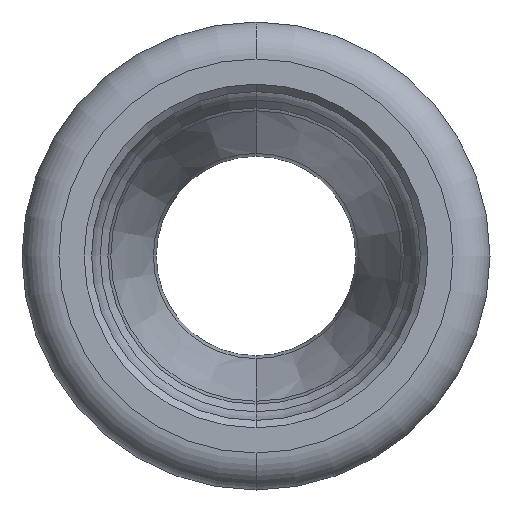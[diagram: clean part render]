
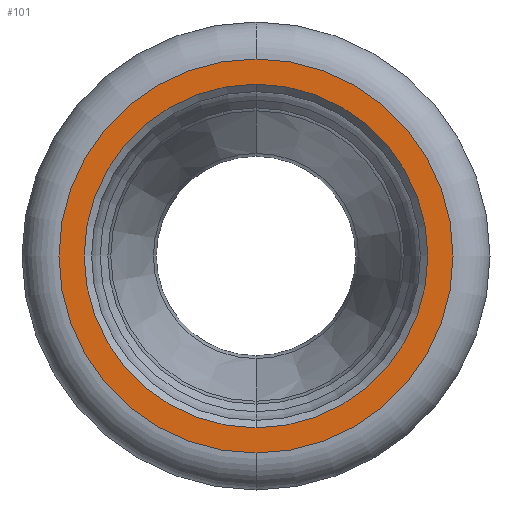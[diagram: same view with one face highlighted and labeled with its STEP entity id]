
A CAD part, left-side view. The second image highlights one B-rep face of the part: STEP entity #101.
In plain terms, the highlighted planar face has unit normal (-1, 0, 0).
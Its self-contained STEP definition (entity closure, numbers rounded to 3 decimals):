
#18 = CIRCLE ( 'NONE', #1534, 11.6 ) ;
#101 = ADVANCED_FACE ( 'NONE', ( #1804, #862 ), #410, .T. ) ;
#147 = ORIENTED_EDGE ( 'NONE', *, *, #2561, .F. ) ;
#234 = CARTESIAN_POINT ( 'NONE',  ( -30.328, 0., -13.3 ) ) ;
#402 = VERTEX_POINT ( 'NONE', #234 ) ;
#410 = PLANE ( 'NONE',  #2570 ) ;
#480 = ORIENTED_EDGE ( 'NONE', *, *, #497, .F. ) ;
#497 = EDGE_CURVE ( 'NONE', #992, #1808, #18, .T. ) ;
#707 = CARTESIAN_POINT ( 'NONE',  ( -30.328, 0., 0. ) ) ;
#806 = DIRECTION ( 'NONE',  ( -1., 0., 0. ) ) ;
#862 = FACE_BOUND ( 'NONE', #1655, .T. ) ;
#992 = VERTEX_POINT ( 'NONE', #2859 ) ;
#1052 = AXIS2_PLACEMENT_3D ( 'NONE', #707, #2408, #2375 ) ;
#1132 = VERTEX_POINT ( 'NONE', #2339 ) ;
#1146 = DIRECTION ( 'NONE',  ( -1., 0., 0. ) ) ;
#1158 = ORIENTED_EDGE ( 'NONE', *, *, #2441, .T. ) ;
#1199 = DIRECTION ( 'NONE',  ( 0., 0., 1. ) ) ;
#1245 = DIRECTION ( 'NONE',  ( 0., 0., 1. ) ) ;
#1377 = CARTESIAN_POINT ( 'NONE',  ( -30.328, -13.3, 0. ) ) ;
#1508 = EDGE_LOOP ( 'NONE', ( #2455, #1158 ) ) ;
#1534 = AXIS2_PLACEMENT_3D ( 'NONE', #1732, #806, #2001 ) ;
#1655 = EDGE_LOOP ( 'NONE', ( #480, #147 ) ) ;
#1732 = CARTESIAN_POINT ( 'NONE',  ( -30.328, 0., 0. ) ) ;
#1804 = FACE_OUTER_BOUND ( 'NONE', #1508, .T. ) ;
#1808 = VERTEX_POINT ( 'NONE', #2395 ) ;
#1877 = CIRCLE ( 'NONE', #2515, 13.3 ) ;
#2001 = DIRECTION ( 'NONE',  ( 0., 0., 1. ) ) ;
#2093 = DIRECTION ( 'NONE',  ( 0., 0., 1. ) ) ;
#2128 = AXIS2_PLACEMENT_3D ( 'NONE', #2184, #2223, #1245 ) ;
#2184 = CARTESIAN_POINT ( 'NONE',  ( -30.328, 0., 0. ) ) ;
#2195 = EDGE_CURVE ( 'NONE', #1132, #402, #2679, .T. ) ;
#2223 = DIRECTION ( 'NONE',  ( -1., 0., 0. ) ) ;
#2339 = CARTESIAN_POINT ( 'NONE',  ( -30.328, 0., 13.3 ) ) ;
#2375 = DIRECTION ( 'NONE',  ( 0., 0., 1. ) ) ;
#2395 = CARTESIAN_POINT ( 'NONE',  ( -30.328, 0., -11.6 ) ) ;
#2408 = DIRECTION ( 'NONE',  ( -1., 0., 0. ) ) ;
#2422 = CIRCLE ( 'NONE', #2128, 11.6 ) ;
#2441 = EDGE_CURVE ( 'NONE', #402, #1132, #1877, .T. ) ;
#2455 = ORIENTED_EDGE ( 'NONE', *, *, #2195, .T. ) ;
#2515 = AXIS2_PLACEMENT_3D ( 'NONE', #2615, #2817, #1199 ) ;
#2561 = EDGE_CURVE ( 'NONE', #1808, #992, #2422, .T. ) ;
#2570 = AXIS2_PLACEMENT_3D ( 'NONE', #1377, #1146, #2093 ) ;
#2615 = CARTESIAN_POINT ( 'NONE',  ( -30.328, 0., 0. ) ) ;
#2679 = CIRCLE ( 'NONE', #1052, 13.3 ) ;
#2817 = DIRECTION ( 'NONE',  ( -1., 0., 0. ) ) ;
#2859 = CARTESIAN_POINT ( 'NONE',  ( -30.328, 0., 11.6 ) ) ;
